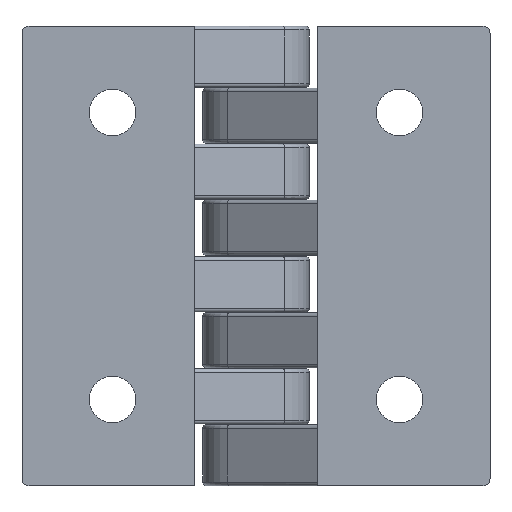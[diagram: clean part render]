
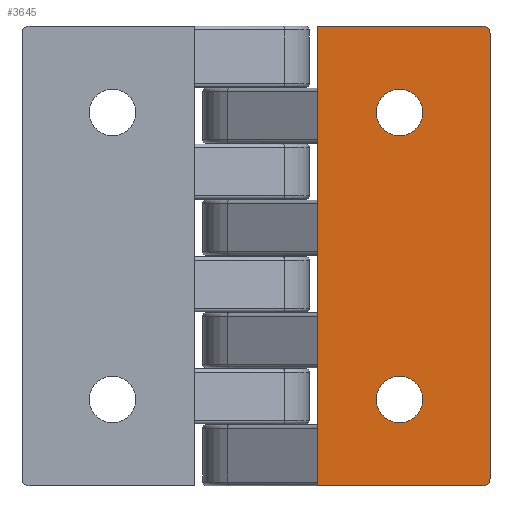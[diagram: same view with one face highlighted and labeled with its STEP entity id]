
A CAD part, front view. The second image highlights one B-rep face of the part: STEP entity #3645.
In plain terms, the highlighted planar face has unit normal (0, -1, 0).
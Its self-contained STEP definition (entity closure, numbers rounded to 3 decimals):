
#1 = EDGE_CURVE ( 'NONE', #5, #8, #1145, .T. ) ;
#2 = EDGE_LOOP ( 'NONE', ( #3, #4, #32, #26, #33, #23 ) ) ;
#3 = ORIENTED_EDGE ( 'NONE', *, *, #7, .T. ) ;
#4 = ORIENTED_EDGE ( 'NONE', *, *, #1, .T. ) ;
#5 = VERTEX_POINT ( 'NONE', #1146 ) ;
#6 = ORIENTED_EDGE ( 'NONE', *, *, #451, .T. ) ;
#7 = EDGE_CURVE ( 'NONE', #194, #5, #1138, .T. ) ;
#8 = VERTEX_POINT ( 'NONE', #1140 ) ;
#11 = EDGE_CURVE ( 'NONE', #461, #411, #1148, .T. ) ;
#23 = ORIENTED_EDGE ( 'NONE', *, *, #199, .F. ) ;
#25 = VERTEX_POINT ( 'NONE', #1131 ) ;
#26 = ORIENTED_EDGE ( 'NONE', *, *, #34, .T. ) ;
#28 = EDGE_CURVE ( 'NONE', #103, #25, #1180, .T. ) ;
#29 = EDGE_CURVE ( 'NONE', #31, #8, #1173, .T. ) ;
#31 = VERTEX_POINT ( 'NONE', #1172 ) ;
#32 = ORIENTED_EDGE ( 'NONE', *, *, #29, .F. ) ;
#33 = ORIENTED_EDGE ( 'NONE', *, *, #28, .F. ) ;
#34 = EDGE_CURVE ( 'NONE', #31, #25, #1171, .T. ) ;
#103 = VERTEX_POINT ( 'NONE', #1297 ) ;
#194 = VERTEX_POINT ( 'NONE', #1480 ) ;
#199 = EDGE_CURVE ( 'NONE', #194, #103, #1483, .T. ) ;
#317 = VERTEX_POINT ( 'NONE', #1639 ) ;
#359 = EDGE_CURVE ( 'NONE', #373, #317, #1723, .T. ) ;
#373 = VERTEX_POINT ( 'NONE', #1770 ) ;
#411 = VERTEX_POINT ( 'NONE', #1886 ) ;
#451 = EDGE_CURVE ( 'NONE', #411, #461, #1924, .T. ) ;
#461 = VERTEX_POINT ( 'NONE', #1973 ) ;
#488 = EDGE_LOOP ( 'NONE', ( #1085, #6 ) ) ;
#1085 = ORIENTED_EDGE ( 'NONE', *, *, #11, .T. ) ;
#1127 = DIRECTION ( 'NONE',  ( 0., 0., 1. ) ) ;
#1128 = DIRECTION ( 'NONE',  ( 0., 1., 0. ) ) ;
#1131 = CARTESIAN_POINT ( 'NONE',  ( 39., 0., 64. ) ) ;
#1135 = DIRECTION ( 'NONE',  ( 1., 0., 0. ) ) ;
#1136 = VECTOR ( 'NONE', #1135, 1000. ) ;
#1137 = CARTESIAN_POINT ( 'NONE',  ( 0., 0., 0. ) ) ;
#1138 = LINE ( 'NONE', #1137, #1136 ) ;
#1139 = AXIS2_PLACEMENT_3D ( 'NONE', #1149, #1128, #1127 ) ;
#1140 = CARTESIAN_POINT ( 'NONE',  ( 40., 0., 1. ) ) ;
#1141 = DIRECTION ( 'NONE',  ( 0., 0., 1. ) ) ;
#1142 = DIRECTION ( 'NONE',  ( 0., -1., 0. ) ) ;
#1143 = CARTESIAN_POINT ( 'NONE',  ( 39., 0., 1. ) ) ;
#1144 = AXIS2_PLACEMENT_3D ( 'NONE', #1143, #1142, #1141 ) ;
#1145 = CIRCLE ( 'NONE', #1144, 1. ) ;
#1146 = CARTESIAN_POINT ( 'NONE',  ( 39., 0., 0. ) ) ;
#1148 = CIRCLE ( 'NONE', #1139, 3.25 ) ;
#1149 = CARTESIAN_POINT ( 'NONE',  ( 27.4, 0., 12. ) ) ;
#1162 = DIRECTION ( 'NONE',  ( 0., 0., 1. ) ) ;
#1163 = DIRECTION ( 'NONE',  ( 0., -1., 0. ) ) ;
#1164 = CARTESIAN_POINT ( 'NONE',  ( 39., 0., 63. ) ) ;
#1165 = AXIS2_PLACEMENT_3D ( 'NONE', #1164, #1163, #1162 ) ;
#1168 = DIRECTION ( 'NONE',  ( 0., 0., -1. ) ) ;
#1169 = VECTOR ( 'NONE', #1168, 1000. ) ;
#1170 = CARTESIAN_POINT ( 'NONE',  ( 40., 0., 64. ) ) ;
#1171 = CIRCLE ( 'NONE', #1165, 1. ) ;
#1172 = CARTESIAN_POINT ( 'NONE',  ( 40., 0., 63. ) ) ;
#1173 = LINE ( 'NONE', #1170, #1169 ) ;
#1174 = DIRECTION ( 'NONE',  ( 1., 0., 0. ) ) ;
#1175 = VECTOR ( 'NONE', #1174, 1000. ) ;
#1176 = CARTESIAN_POINT ( 'NONE',  ( 0., 0., 64. ) ) ;
#1180 = LINE ( 'NONE', #1176, #1175 ) ;
#1297 = CARTESIAN_POINT ( 'NONE',  ( 16., 0., 64. ) ) ;
#1480 = CARTESIAN_POINT ( 'NONE',  ( 16., 0., 0. ) ) ;
#1483 = LINE ( 'NONE', #1507, #1506 ) ;
#1505 = DIRECTION ( 'NONE',  ( 0., 0., 1. ) ) ;
#1506 = VECTOR ( 'NONE', #1505, 1000. ) ;
#1507 = CARTESIAN_POINT ( 'NONE',  ( 16., 0., 0. ) ) ;
#1639 = CARTESIAN_POINT ( 'NONE',  ( 27.4, 0., 55.25 ) ) ;
#1723 = CIRCLE ( 'NONE', #1771, 3.25 ) ;
#1767 = DIRECTION ( 'NONE',  ( 0., 0., 1. ) ) ;
#1768 = DIRECTION ( 'NONE',  ( 0., 1., 0. ) ) ;
#1770 = CARTESIAN_POINT ( 'NONE',  ( 27.4, 0., 48.75 ) ) ;
#1771 = AXIS2_PLACEMENT_3D ( 'NONE', #1775, #1768, #1767 ) ;
#1775 = CARTESIAN_POINT ( 'NONE',  ( 27.4, 0., 52. ) ) ;
#1886 = CARTESIAN_POINT ( 'NONE',  ( 27.4, 0., 8.75 ) ) ;
#1924 = CIRCLE ( 'NONE', #1953, 3.25 ) ;
#1941 = DIRECTION ( 'NONE',  ( 0., 0., 1. ) ) ;
#1942 = DIRECTION ( 'NONE',  ( 0., 1., 0. ) ) ;
#1943 = CARTESIAN_POINT ( 'NONE',  ( 27.4, 0., 12. ) ) ;
#1953 = AXIS2_PLACEMENT_3D ( 'NONE', #1943, #1942, #1941 ) ;
#1973 = CARTESIAN_POINT ( 'NONE',  ( 27.4, 0., 15.25 ) ) ;
#3117 = DIRECTION ( 'NONE',  ( 0., 0., 1. ) ) ;
#3118 = DIRECTION ( 'NONE',  ( 0., 1., 0. ) ) ;
#3119 = CARTESIAN_POINT ( 'NONE',  ( 27.4, 0., 52. ) ) ;
#3120 = AXIS2_PLACEMENT_3D ( 'NONE', #3119, #3118, #3117 ) ;
#3124 = CIRCLE ( 'NONE', #3120, 3.25 ) ;
#3170 = DIRECTION ( 'NONE',  ( 0., 0., 1. ) ) ;
#3175 = DIRECTION ( 'NONE',  ( 0., 1., 0. ) ) ;
#3176 = CARTESIAN_POINT ( 'NONE',  ( 0., 0., 64. ) ) ;
#3178 = FACE_OUTER_BOUND ( 'NONE', #2, .T. ) ;
#3179 = AXIS2_PLACEMENT_3D ( 'NONE', #3176, #3175, #3170 ) ;
#3181 = FACE_BOUND ( 'NONE', #488, .T. ) ;
#3189 = FACE_BOUND ( 'NONE', #3614, .T. ) ;
#3190 = PLANE ( 'NONE',  #3179 ) ;
#3549 = ORIENTED_EDGE ( 'NONE', *, *, #359, .T. ) ;
#3612 = EDGE_CURVE ( 'NONE', #317, #373, #3124, .T. ) ;
#3614 = EDGE_LOOP ( 'NONE', ( #3648, #3549 ) ) ;
#3645 = ADVANCED_FACE ( 'NONE', ( #3189, #3181, #3178 ), #3190, .F. ) ;
#3648 = ORIENTED_EDGE ( 'NONE', *, *, #3612, .T. ) ;
